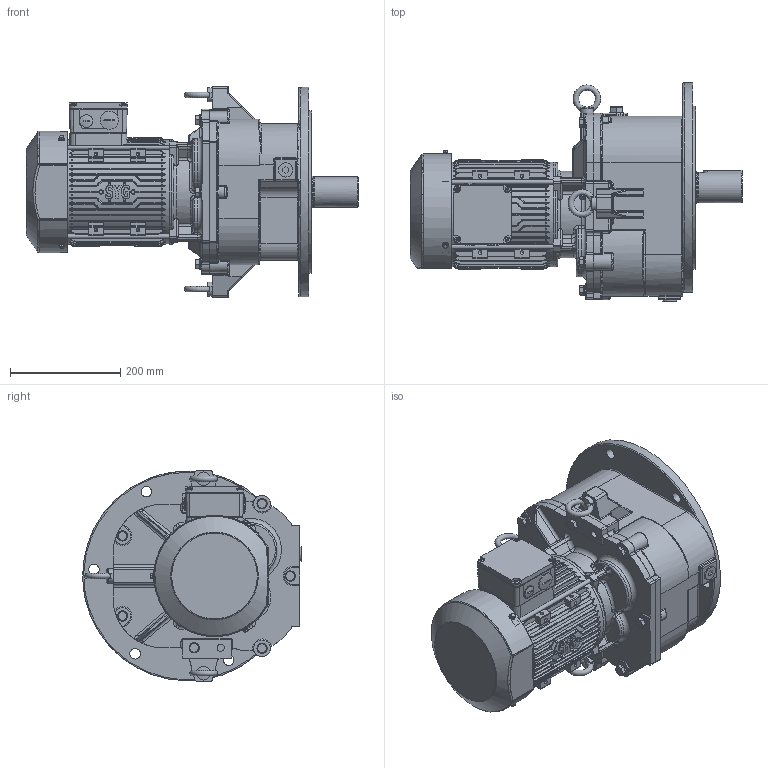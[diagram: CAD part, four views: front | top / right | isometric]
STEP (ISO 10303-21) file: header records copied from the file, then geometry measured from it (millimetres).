
FILE_DESCRIPTION(/* description */ (''),/* implementation_level */ '2;1');
FILE_NAME(/* name */ 'D:\▼ 3D：MG\01. 내부 직접 검토품\MG 205\외형도용 - ASS''Y\SK2\MG2050B - OUTLINE (SK2，VT，2.2kW).stp',/* time_stamp */ '2026-04-22T12:01:19+09:00',/* author */ ('이정훈'),/* organization */ (''),/* preprocessor_version */ 'ST-DEVELOPER v18.1',/* originating_system */ 'Autodesk Inventor 2022',/* authorisation */ '');
FILE_SCHEMA (('AUTOMOTIVE_DESIGN { 1 0 10303 214 3 1 1 }'));
Products named in the file (1): MG2050B - OUTLINE (SK2，VT，2.2kW
)
Bounding box: 601.5 x 396 x 382 mm (x, y, z)
Volume: 23452463.7 mm3; surface area: 1077090.7 mm2
Topology: 7 solids, 7 shells, 4270 faces, 10797 edges, 6505 vertices
Faces by surface type: plane 1446, cylinder 1405, bspline 886, cone 248, torus 213, sphere 72
Full cylindrical faces by diameter (mm): 3 x2, 4 x1, 5.5 x3, 6.8 x4, 8 x4, 8.917 x7, 9 x4, 9.5 x4, 10 x7, 12 x7, 13 x2, 13.097 x1, 19 x6, 23 x2, 26 x1, 26.194 x1, 30.5 x1, 33 x1, 47 x1, 52 x1, 54.4 x1, 55 x1, 60 x1, 62 x1, 85 x1, 106 x1, 189 x2, 275 x1, 295 x1, 380 x1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
Entity records: 178277 total; most frequent: CARTESIAN_POINT 79754, ORIENTED_EDGE 21406, DIRECTION 19768, EDGE_CURVE 10703, AXIS2_PLACEMENT_3D 7694, VERTEX_POINT 6505, EDGE_LOOP 4380, LINE 4380
